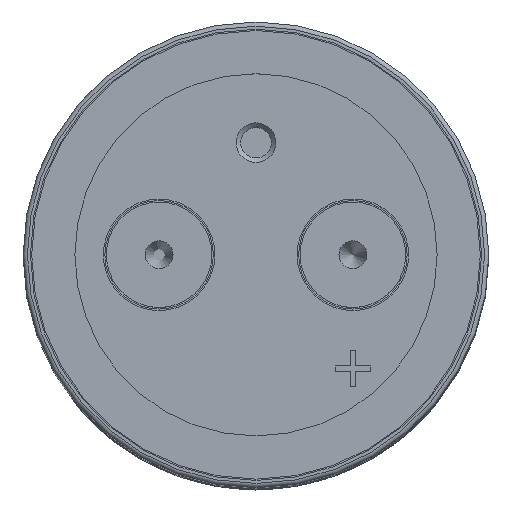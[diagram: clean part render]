
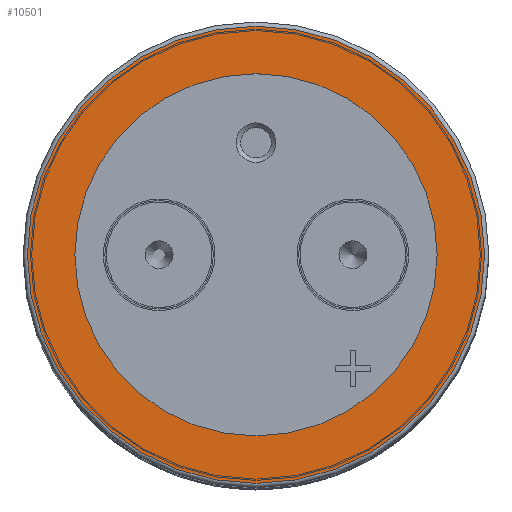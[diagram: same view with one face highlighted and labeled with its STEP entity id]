
A CAD part, top view. The second image highlights one B-rep face of the part: STEP entity #10501.
In plain terms, the highlighted planar face has unit normal (0, 0, 1).
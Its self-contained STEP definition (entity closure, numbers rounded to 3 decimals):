
#10433 = TOROIDAL_SURFACE('',#10434,37.5,0.7);
#10434 = AXIS2_PLACEMENT_3D('',#10435,#10436,#10437);
#10435 = CARTESIAN_POINT('',(0.,0.,0.));
#10436 = DIRECTION('',(0.,0.,1.));
#10437 = DIRECTION('',(1.,0.,0.));
#10451 = VERTEX_POINT('',#10452);
#10452 = CARTESIAN_POINT('',(37.5,0.,0.7));
#10474 = EDGE_CURVE('',#10451,#10451,#10475,.T.);
#10475 = SURFACE_CURVE('',#10476,(#10481,#10488),.PCURVE_S1.);
#10476 = CIRCLE('',#10477,37.5);
#10477 = AXIS2_PLACEMENT_3D('',#10478,#10479,#10480);
#10478 = CARTESIAN_POINT('',(0.,0.,0.7));
#10479 = DIRECTION('',(0.,-0.,1.));
#10480 = DIRECTION('',(1.,0.,0.));
#10481 = PCURVE('',#10433,#10482);
#10482 = DEFINITIONAL_REPRESENTATION('',(#10483),#10487);
#10483 = LINE('',#10484,#10485);
#10484 = CARTESIAN_POINT('',(0.,1.571));
#10485 = VECTOR('',#10486,1.);
#10486 = DIRECTION('',(1.,0.));
#10487 = ( GEOMETRIC_REPRESENTATION_CONTEXT(2) 
PARAMETRIC_REPRESENTATION_CONTEXT() REPRESENTATION_CONTEXT('2D SPACE',''
  ) );
#10488 = PCURVE('',#10489,#10494);
#10489 = PLANE('',#10490);
#10490 = AXIS2_PLACEMENT_3D('',#10491,#10492,#10493);
#10491 = CARTESIAN_POINT('',(0.,0.,0.7));
#10492 = DIRECTION('',(0.,0.,1.));
#10493 = DIRECTION('',(1.,0.,0.));
#10494 = DEFINITIONAL_REPRESENTATION('',(#10495),#10499);
#10495 = CIRCLE('',#10496,37.5);
#10496 = AXIS2_PLACEMENT_2D('',#10497,#10498);
#10497 = CARTESIAN_POINT('',(0.,0.));
#10498 = DIRECTION('',(1.,0.));
#10499 = ( GEOMETRIC_REPRESENTATION_CONTEXT(2) 
PARAMETRIC_REPRESENTATION_CONTEXT() REPRESENTATION_CONTEXT('2D SPACE',''
  ) );
#10501 = ADVANCED_FACE('',(#10502,#10505),#10489,.T.);
#10502 = FACE_BOUND('',#10503,.T.);
#10503 = EDGE_LOOP('',(#10504));
#10504 = ORIENTED_EDGE('',*,*,#10474,.T.);
#10505 = FACE_BOUND('',#10506,.T.);
#10506 = EDGE_LOOP('',(#10507));
#10507 = ORIENTED_EDGE('',*,*,#10508,.F.);
#10508 = EDGE_CURVE('',#10509,#10509,#10511,.T.);
#10509 = VERTEX_POINT('',#10510);
#10510 = CARTESIAN_POINT('',(29.711,0.,
    0.7));
#10511 = SURFACE_CURVE('',#10512,(#10517,#10524),.PCURVE_S1.);
#10512 = CIRCLE('',#10513,29.711);
#10513 = AXIS2_PLACEMENT_3D('',#10514,#10515,#10516);
#10514 = CARTESIAN_POINT('',(0.,0.,0.7));
#10515 = DIRECTION('',(0.,-0.,1.));
#10516 = DIRECTION('',(1.,0.,0.));
#10517 = PCURVE('',#10489,#10518);
#10518 = DEFINITIONAL_REPRESENTATION('',(#10519),#10523);
#10519 = CIRCLE('',#10520,29.711);
#10520 = AXIS2_PLACEMENT_2D('',#10521,#10522);
#10521 = CARTESIAN_POINT('',(0.,0.));
#10522 = DIRECTION('',(1.,0.));
#10523 = ( GEOMETRIC_REPRESENTATION_CONTEXT(2) 
PARAMETRIC_REPRESENTATION_CONTEXT() REPRESENTATION_CONTEXT('2D SPACE',''
  ) );
#10524 = PCURVE('',#10525,#10530);
#10525 = CYLINDRICAL_SURFACE('',#10526,29.711);
#10526 = AXIS2_PLACEMENT_3D('',#10527,#10528,#10529);
#10527 = CARTESIAN_POINT('',(0.,0.,0.7));
#10528 = DIRECTION('',(-0.,-0.,-1.));
#10529 = DIRECTION('',(1.,0.,0.));
#10530 = DEFINITIONAL_REPRESENTATION('',(#10531),#10535);
#10531 = LINE('',#10532,#10533);
#10532 = CARTESIAN_POINT('',(-0.,0.));
#10533 = VECTOR('',#10534,1.);
#10534 = DIRECTION('',(-1.,0.));
#10535 = ( GEOMETRIC_REPRESENTATION_CONTEXT(2) 
PARAMETRIC_REPRESENTATION_CONTEXT() REPRESENTATION_CONTEXT('2D SPACE',''
  ) );
